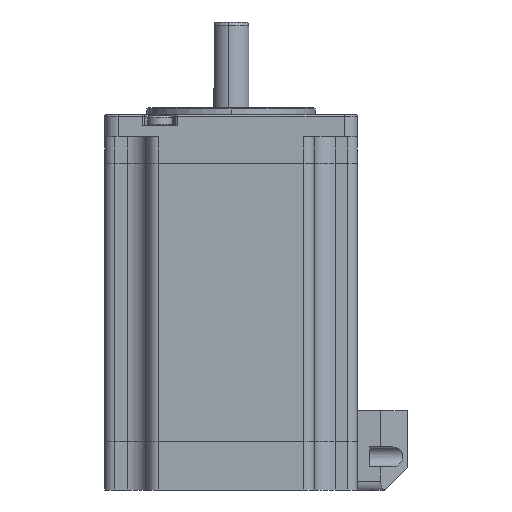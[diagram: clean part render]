
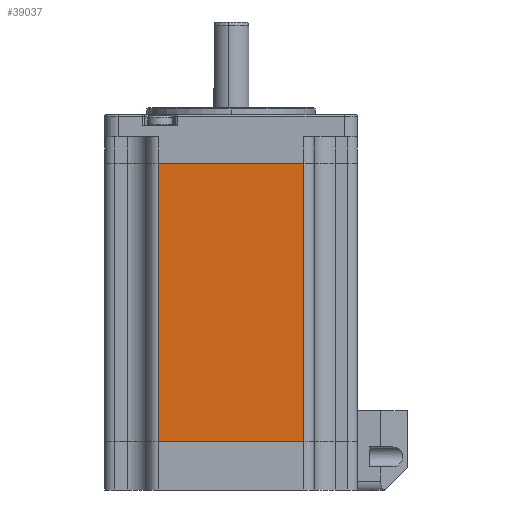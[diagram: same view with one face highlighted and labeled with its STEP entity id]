
A CAD part, left-side view. The second image highlights one B-rep face of the part: STEP entity #39037.
In plain terms, the highlighted planar face has unit normal (-1, 0, 0).
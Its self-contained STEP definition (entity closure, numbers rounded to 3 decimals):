
#3292 = DIRECTION ( 'NONE',  ( 0., -1., 0. ) ) ;
#6242 = EDGE_CURVE ( 'NONE', #44094, #13026, #8707, .T. ) ;
#8707 = LINE ( 'NONE', #28049, #29770 ) ;
#9661 = CARTESIAN_POINT ( 'NONE',  ( -28.6, 16.5, 26.5 ) ) ;
#10907 = VERTEX_POINT ( 'NONE', #38554 ) ;
#11368 = EDGE_CURVE ( 'NONE', #13026, #10907, #21793, .T. ) ;
#12729 = DIRECTION ( 'NONE',  ( 0., 1., 0. ) ) ;
#13026 = VERTEX_POINT ( 'NONE', #63003 ) ;
#13177 = CARTESIAN_POINT ( 'NONE',  ( -28.6, 16.5, 26.5 ) ) ;
#14716 = EDGE_CURVE ( 'NONE', #10907, #46386, #16797, .T. ) ;
#16797 = LINE ( 'NONE', #13177, #60382 ) ;
#21793 = LINE ( 'NONE', #48249, #60673 ) ;
#27045 = VECTOR ( 'NONE', #3292, 1000. ) ;
#28049 = CARTESIAN_POINT ( 'NONE',  ( -28.6, -16.5, 26.5 ) ) ;
#29770 = VECTOR ( 'NONE', #62787, 1000. ) ;
#30172 = LINE ( 'NONE', #58091, #27045 ) ;
#30453 = CARTESIAN_POINT ( 'NONE',  ( -28.6, -16.5, 26.5 ) ) ;
#32797 = ORIENTED_EDGE ( 'NONE', *, *, #11368, .F. ) ;
#36692 = EDGE_LOOP ( 'NONE', ( #50908, #32797, #51256, #54741 ) ) ;
#38554 = CARTESIAN_POINT ( 'NONE',  ( -28.6, 16.5, -36.5 ) ) ;
#39037 = ADVANCED_FACE ( 'NONE', ( #48195 ), #63180, .F. ) ;
#42202 = AXIS2_PLACEMENT_3D ( 'NONE', #59053, #43480, #63825 ) ;
#43480 = DIRECTION ( 'NONE',  ( 1., 0., 0. ) ) ;
#44094 = VERTEX_POINT ( 'NONE', #30453 ) ;
#46386 = VERTEX_POINT ( 'NONE', #9661 ) ;
#48195 = FACE_OUTER_BOUND ( 'NONE', #36692, .T. ) ;
#48249 = CARTESIAN_POINT ( 'NONE',  ( -28.6, -16.5, -36.5 ) ) ;
#50908 = ORIENTED_EDGE ( 'NONE', *, *, #14716, .F. ) ;
#51256 = ORIENTED_EDGE ( 'NONE', *, *, #6242, .F. ) ;
#53007 = DIRECTION ( 'NONE',  ( 0., 0., 1. ) ) ;
#54741 = ORIENTED_EDGE ( 'NONE', *, *, #61673, .F. ) ;
#58091 = CARTESIAN_POINT ( 'NONE',  ( -28.6, -16.5, 26.5 ) ) ;
#59053 = CARTESIAN_POINT ( 'NONE',  ( -28.6, -16.5, 26.5 ) ) ;
#60382 = VECTOR ( 'NONE', #53007, 1000. ) ;
#60673 = VECTOR ( 'NONE', #12729, 1000. ) ;
#61673 = EDGE_CURVE ( 'NONE', #46386, #44094, #30172, .T. ) ;
#62787 = DIRECTION ( 'NONE',  ( 0., 0., -1. ) ) ;
#63003 = CARTESIAN_POINT ( 'NONE',  ( -28.6, -16.5, -36.5 ) ) ;
#63180 = PLANE ( 'NONE',  #42202 ) ;
#63825 = DIRECTION ( 'NONE',  ( 0., 0., -1. ) ) ;
